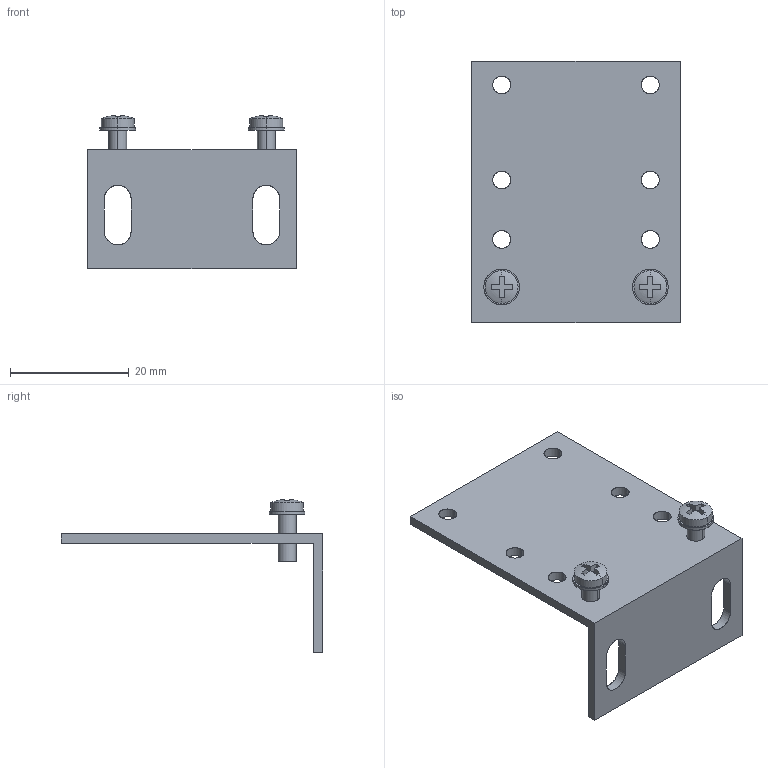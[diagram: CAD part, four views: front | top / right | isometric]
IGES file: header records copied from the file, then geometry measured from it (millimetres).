
Start section: SolidWorks IGES file using analytic representation for surfaces
Global section: file name: C:\catalog\MS-RF22.IGS; native system: SolidWorks 2005 by SolidWorks Corporation; preprocessor: SolidWorks 2005 by SolidWorks Corporation; author: yk0651; date: 070713.182335; units: millimetre
Bounding box: 35 x 44 x 25.78 mm (x, y, z)
Surface area: 4969.9 mm2 (no closed solid volume)
Topology: 0 solids, 0 shells, 82 faces, 1388 edges, 1388 vertices
Faces by surface type: bspline 44, revolution 38
